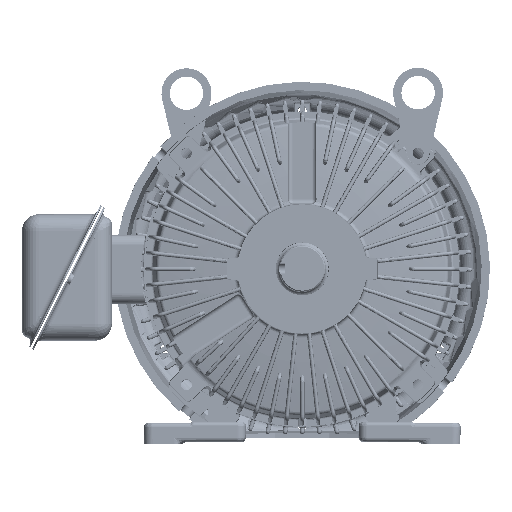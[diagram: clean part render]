
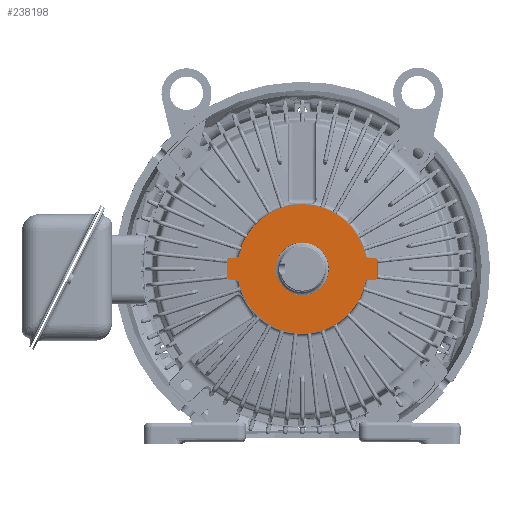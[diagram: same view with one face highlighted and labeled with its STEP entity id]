
A CAD part, top view. The second image highlights one B-rep face of the part: STEP entity #238198.
In plain terms, the highlighted planar face has unit normal (0, 0, 1) as drawn and (0, 0, -1) by its records, which use the part's own axes.
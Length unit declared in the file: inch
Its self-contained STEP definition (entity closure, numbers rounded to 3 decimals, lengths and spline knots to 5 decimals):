
#205625=CARTESIAN_POINT('',(0.,0.,-1.531));
#205626=DIRECTION('',(0.,0.,-1.));
#205627=DIRECTION('',(0.98,-0.198,0.));
#205628=AXIS2_PLACEMENT_3D('',#205625,#205626,#205627);
#206013=CARTESIAN_POINT('',(0.,0.,-1.531));
#206014=DIRECTION('',(0.,0.,-1.));
#206015=DIRECTION('',(-0.98,0.198,0.));
#206016=AXIS2_PLACEMENT_3D('',#206013,#206014,#206015);
#216791=DIRECTION('',(0.,-1.,0.));
#216792=VECTOR('',#216791,0.49948);
#216793=CARTESIAN_POINT('',(-2.25,0.25024,-1.531));
#216794=LINE('',#216793,#216792);
#216795=DIRECTION('',(0.,1.,0.));
#216796=VECTOR('',#216795,0.49948);
#216797=CARTESIAN_POINT('',(2.25,-0.25024,-1.531));
#216798=LINE('',#216797,#216796);
#216799=CARTESIAN_POINT('',(0.,0.,-1.531));
#216800=DIRECTION('',(0.,0.,1.));
#216801=DIRECTION('',(0.,1.,0.));
#216802=AXIS2_PLACEMENT_3D('',#216799,#216800,#216801);
#216804=CARTESIAN_POINT('',(0.,0.,-1.531));
#216805=DIRECTION('',(0.,0.,1.));
#216806=DIRECTION('',(0.,-1.,0.));
#216807=AXIS2_PLACEMENT_3D('',#216804,#216805,#216806);
#216813=CARTESIAN_POINT('',(-1.96081,0.39651,-1.531));
#216814=DIRECTION('',(0.,0.,1.));
#216815=DIRECTION('',(0.087,-0.996,0.));
#216816=AXIS2_PLACEMENT_3D('',#216813,#216814,#216815);
#216822=DIRECTION('',(0.996,0.087,0.));
#216823=VECTOR('',#216822,0.23808);
#216824=CARTESIAN_POINT('',(-2.19249,0.313,-1.531));
#216825=LINE('',#216824,#216823);
#216845=CARTESIAN_POINT('',(-2.187,0.25024,-1.531));
#216846=DIRECTION('',(0.,0.,-1.));
#216847=DIRECTION('',(-1.,0.,0.));
#216848=AXIS2_PLACEMENT_3D('',#216845,#216846,#216847);
#217006=CARTESIAN_POINT('',(-2.187,-0.24924,-1.531));
#217007=DIRECTION('',(0.,0.,-1.));
#217008=DIRECTION('',(-0.087,-0.996,0.));
#217009=AXIS2_PLACEMENT_3D('',#217006,#217007,#217008);
#217030=DIRECTION('',(-0.996,0.087,0.));
#217031=VECTOR('',#217030,0.23787);
#217032=CARTESIAN_POINT('',(-1.95553,-0.33273,-1.531));
#217033=LINE('',#217032,#217031);
#217034=CARTESIAN_POINT('',(-1.96102,-0.39549,-1.531));
#217035=DIRECTION('',(0.,0.,1.));
#217036=DIRECTION('',(0.98,0.197,0.));
#217037=AXIS2_PLACEMENT_3D('',#217034,#217035,#217036);
#217063=CARTESIAN_POINT('',(1.96081,-0.39651,-1.531));
#217064=DIRECTION('',(0.,0.,1.));
#217065=DIRECTION('',(-0.087,0.996,0.));
#217066=AXIS2_PLACEMENT_3D('',#217063,#217064,#217065);
#217072=DIRECTION('',(-0.996,-0.087,0.));
#217073=VECTOR('',#217072,0.23808);
#217074=CARTESIAN_POINT('',(2.19249,-0.313,-1.531));
#217075=LINE('',#217074,#217073);
#217095=CARTESIAN_POINT('',(2.187,-0.25024,-1.531));
#217096=DIRECTION('',(0.,0.,-1.));
#217097=DIRECTION('',(1.,0.,0.));
#217098=AXIS2_PLACEMENT_3D('',#217095,#217096,#217097);
#217256=CARTESIAN_POINT('',(2.187,0.24924,-1.531));
#217257=DIRECTION('',(0.,0.,-1.));
#217258=DIRECTION('',(0.087,0.996,0.));
#217259=AXIS2_PLACEMENT_3D('',#217256,#217257,#217258);
#217280=DIRECTION('',(0.996,-0.087,0.));
#217281=VECTOR('',#217280,0.23787);
#217282=CARTESIAN_POINT('',(1.95553,0.33273,-1.531));
#217283=LINE('',#217282,#217281);
#217284=CARTESIAN_POINT('',(1.96102,0.39549,-1.531));
#217285=DIRECTION('',(0.,0.,1.));
#217286=DIRECTION('',(-0.98,-0.197,0.));
#217287=AXIS2_PLACEMENT_3D('',#217284,#217285,#217286);
#225256=CARTESIAN_POINT('',(2.25,-0.25024,-1.531));
#225257=CARTESIAN_POINT('',(2.19249,-0.313,-1.531));
#225258=VERTEX_POINT('',#225256);
#225259=VERTEX_POINT('',#225257);
#225260=CARTESIAN_POINT('',(1.95532,-0.33375,-1.531));
#225261=VERTEX_POINT('',#225260);
#225262=CARTESIAN_POINT('',(2.19249,0.312,-1.531));
#225263=CARTESIAN_POINT('',(2.25,0.24924,-1.531));
#225264=VERTEX_POINT('',#225262);
#225265=VERTEX_POINT('',#225263);
#225270=CARTESIAN_POINT('',(-2.25,0.25024,-1.531));
#225271=CARTESIAN_POINT('',(-2.19249,0.313,-1.531));
#225272=VERTEX_POINT('',#225270);
#225273=VERTEX_POINT('',#225271);
#225274=CARTESIAN_POINT('',(-1.95532,0.33375,-1.531));
#225275=VERTEX_POINT('',#225274);
#225276=CARTESIAN_POINT('',(-2.19249,-0.312,-1.531));
#225277=CARTESIAN_POINT('',(-2.25,-0.24924,-1.531));
#225278=VERTEX_POINT('',#225276);
#225279=VERTEX_POINT('',#225277);
#225284=CARTESIAN_POINT('',(1.89906,-0.38402,-1.531));
#225285=CARTESIAN_POINT('',(-1.89925,-0.38308,-1.531));
#225286=VERTEX_POINT('',#225284);
#225287=VERTEX_POINT('',#225285);
#225288=CARTESIAN_POINT('',(-1.89905,0.38409,-1.531));
#225289=CARTESIAN_POINT('',(1.89925,0.3831,-1.531));
#225290=VERTEX_POINT('',#225288);
#225291=VERTEX_POINT('',#225289);
#227309=CARTESIAN_POINT('',(1.95553,0.33273,-1.531));
#227310=VERTEX_POINT('',#227309);
#227312=CARTESIAN_POINT('',(-1.95553,-0.33273,-1.531));
#227313=VERTEX_POINT('',#227312);
#228167=CARTESIAN_POINT('',(0.,0.7925,-1.531));
#228168=CARTESIAN_POINT('',(0.,-0.7925,-1.531));
#228169=VERTEX_POINT('',#228167);
#228170=VERTEX_POINT('',#228168);
#238156=CARTESIAN_POINT('',(0.,0.,-1.531));
#238157=DIRECTION('',(0.,0.,-1.));
#238158=DIRECTION('',(0.,-1.,0.));
#238159=AXIS2_PLACEMENT_3D('',#238156,#238157,#238158);
#238160=PLANE('',#238159);
#238161=ORIENTED_EDGE('',*,*,#228358,.F.);
#238163=ORIENTED_EDGE('',*,*,#238162,.F.);
#238165=ORIENTED_EDGE('',*,*,#238164,.F.);
#238167=ORIENTED_EDGE('',*,*,#238166,.F.);
#238169=ORIENTED_EDGE('',*,*,#238168,.T.);
#238171=ORIENTED_EDGE('',*,*,#238170,.F.);
#238173=ORIENTED_EDGE('',*,*,#238172,.F.);
#238175=ORIENTED_EDGE('',*,*,#238174,.F.);
#238176=ORIENTED_EDGE('',*,*,#228216,.F.);
#238178=ORIENTED_EDGE('',*,*,#238177,.F.);
#238180=ORIENTED_EDGE('',*,*,#238179,.F.);
#238182=ORIENTED_EDGE('',*,*,#238181,.F.);
#238184=ORIENTED_EDGE('',*,*,#238183,.T.);
#238186=ORIENTED_EDGE('',*,*,#238185,.F.);
#238188=ORIENTED_EDGE('',*,*,#238187,.F.);
#238190=ORIENTED_EDGE('',*,*,#238189,.F.);
#238191=EDGE_LOOP('',(#238161,#238163,#238165,#238167,#238169,#238171,#238173,
#238175,#238176,#238178,#238180,#238182,#238184,#238186,#238188,#238190));
#238192=FACE_OUTER_BOUND('',#238191,.F.);
#238193=ORIENTED_EDGE('',*,*,#238146,.F.);
#238195=ORIENTED_EDGE('',*,*,#238194,.F.);
#238196=EDGE_LOOP('',(#238193,#238195));
#238197=FACE_BOUND('',#238196,.F.);
#238198=ADVANCED_FACE('',(#238192,#238197),#238160,.T.);
#205629=CIRCLE('',#205628,1.9375);
#206017=CIRCLE('',#206016,1.9375);
#216803=CIRCLE('',#216802,0.7925);
#216808=CIRCLE('',#216807,0.7925);
#216817=CIRCLE('',#216816,0.063);
#216849=CIRCLE('',#216848,0.063);
#217010=CIRCLE('',#217009,0.063);
#217038=CIRCLE('',#217037,0.063);
#217067=CIRCLE('',#217066,0.063);
#217099=CIRCLE('',#217098,0.063);
#217260=CIRCLE('',#217259,0.063);
#217288=CIRCLE('',#217287,0.063);
#228216=EDGE_CURVE('',#225286,#225287,#205629,.T.);
#228358=EDGE_CURVE('',#225290,#225291,#206017,.T.);
#238146=EDGE_CURVE('',#228169,#228170,#216803,.T.);
#238162=EDGE_CURVE('',#225275,#225290,#216817,.T.);
#238164=EDGE_CURVE('',#225273,#225275,#216825,.T.);
#238166=EDGE_CURVE('',#225272,#225273,#216849,.T.);
#238168=EDGE_CURVE('',#225272,#225279,#216794,.T.);
#238170=EDGE_CURVE('',#225278,#225279,#217010,.T.);
#238172=EDGE_CURVE('',#227313,#225278,#217033,.T.);
#238174=EDGE_CURVE('',#225287,#227313,#217038,.T.);
#238177=EDGE_CURVE('',#225261,#225286,#217067,.T.);
#238179=EDGE_CURVE('',#225259,#225261,#217075,.T.);
#238181=EDGE_CURVE('',#225258,#225259,#217099,.T.);
#238183=EDGE_CURVE('',#225258,#225265,#216798,.T.);
#238185=EDGE_CURVE('',#225264,#225265,#217260,.T.);
#238187=EDGE_CURVE('',#227310,#225264,#217283,.T.);
#238189=EDGE_CURVE('',#225291,#227310,#217288,.T.);
#238194=EDGE_CURVE('',#228170,#228169,#216808,.T.);
